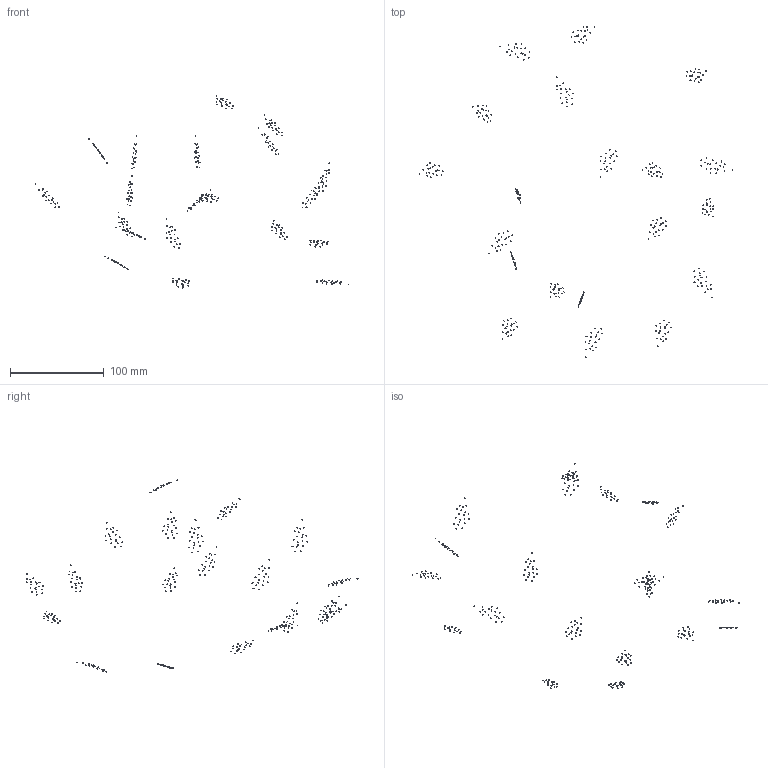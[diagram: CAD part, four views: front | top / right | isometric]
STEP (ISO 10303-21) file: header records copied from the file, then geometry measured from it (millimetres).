
FILE_DESCRIPTION(('Open CASCADE Model'),'2;1');
FILE_NAME('Open CASCADE Shape Model','2026-10-16T05:26:22',('Author'),( 'Open CASCADE'),'Open CASCADE STEP processor 7.9','Open CASCADE 7.9' ,'Unknown');
FILE_SCHEMA(('AUTOMOTIVE_DESIGN { 1 0 10303 214 1 1 1 1 }'));
Length unit declared in the file: millimetre
Products named in the file (401): Open CASCADE STEP translator 7.9 13; Open CASCADE STEP translator 7.9 13.1; Open CASCADE STEP translator 7.9 13.2; Open CASCADE STEP translator 7.9 13.3; Open CASCADE STEP translator 7.9 13.4; Open CASCADE STEP translator 7.9 13.5; Open CASCADE STEP translator 7.9 13.6; Open CASCADE STEP translator 7.9 13.7; Open CASCADE STEP translator 7.9 13.8; Open CASCADE STEP translator 7.9 13.9; Open CASCADE STEP translator 7.9 13.10; Open CASCADE STEP translator 7.9 13.11; Open CASCADE STEP translator 7.9 13.12; Open CASCADE STEP translator 7.9 13.13; Open CASCADE STEP translator 7.9 13.14; Open CASCADE STEP translator 7.9 13.15; Open CASCADE STEP translator 7.9 13.16; Open CASCADE STEP translator 7.9 13.17; Open CASCADE STEP translator 7.9 13.18; Open CASCADE STEP translator 7.9 13.19; Open CASCADE STEP translator 7.9 13.20; Open CASCADE STEP translator 7.9 13.21; Open CASCADE STEP translator 7.9 13.22; Open CASCADE STEP translator 7.9 13.23; Open CASCADE STEP translator 7.9 13.24; Open CASCADE STEP translator 7.9 13.25; Open CASCADE STEP translator 7.9 13.26; Open CASCADE STEP translator 7.9 13.27; Open CASCADE STEP translator 7.9 13.28; Open CASCADE STEP translator 7.9 13.29; Open CASCADE STEP translator 7.9 13.30; Open CASCADE STEP translator 7.9 13.31; Open CASCADE STEP translator 7.9 13.32; Open CASCADE STEP translator 7.9 13.33; Open CASCADE STEP translator 7.9 13.34; Open CASCADE STEP translator 7.9 13.35; Open CASCADE STEP translator 7.9 13.36; Open CASCADE STEP translator 7.9 13.37; Open CASCADE STEP translator 7.9 13.38; Open CASCADE STEP translator 7.9 13.39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
Assembly tree (400 placements, depth 2):
  Open CASCADE STEP translator 7.9 13
    Open CASCADE STEP translator 7.9 13.1
    Open CASCADE STEP translator 7.9 13.2
    Open CASCADE STEP translator 7.9 13.3
    Open CASCADE STEP translator 7.9 13.4
    Open CASCADE STEP translator 7.9 13.5
    Open CASCADE STEP translator 7.9 13.6
    Open CASCADE STEP translator 7.9 13.7
    Open CASCADE STEP translator 7.9 13.8
    Open CASCADE STEP translator 7.9 13.9
    Open CASCADE STEP translator 7.9 13.10
    Open CASCADE STEP translator 7.9 13.11
    Open CASCADE STEP translator 7.9 13.12
    Open CASCADE STEP translator 7.9 13.13
    Open CASCADE STEP translator 7.9 13.14
    Open CASCADE STEP translator 7.9 13.15
    Open CASCADE STEP translator 7.9 13.16
    Open CASCADE STEP translator 7.9 13.17
    Open CASCADE STEP translator 7.9 13.18
    Open CASCADE STEP translator 7.9 13.19
    Open CASCADE STEP translator 7.9 13.20
    Open CASCADE STEP translator 7.9 13.21
    Open CASCADE STEP translator 7.9 13.22
    Open CASCADE STEP translator 7.9 13.23
    Open CASCADE STEP translator 7.9 13.24
    Open CASCADE STEP translator 7.9 13.25
    Open CASCADE STEP translator 7.9 13.26
    Open CASCADE STEP translator 7.9 13.27
    Open CASCADE STEP translator 7.9 13.28
    Open CASCADE STEP translator 7.9 13.29
    Open CASCADE STEP translator 7.9 13.30
    Open CASCADE STEP translator 7.9 13.31
    Open CASCADE STEP translator 7.9 13.32
    Open CASCADE STEP translator 7.9 13.33
    Open CASCADE STEP translator 7.9 13.34
    Open CASCADE STEP translator 7.9 13.35
    Open CASCADE STEP translator 7.9 13.36
    Open CASCADE STEP translator 7.9 13.37
    Open CASCADE STEP translator 7.9 13.38
    Open CASCADE STEP translator 7.9 13.39
    Open CASCADE STEP translator 7.9 13.40
    Open CASCADE STEP translator 7.9 13.41
    Open CASCADE STEP translator 7.9 13.42
    Open CASCADE STEP translator 7.9 13.43
    Open CASCADE STEP translator 7.9 13.44
    Open CASCADE STEP translator 7.9 13.45
    Open CASCADE STEP translator 7.9 13.46
    Open CASCADE STEP translator 7.9 13.47
    Open CASCADE STEP translator 7.9 13.48
    Open CASCADE STEP translator 7.9 13.49
    Open CASCADE STEP translator 7.9 13.50
    Open CASCADE STEP translator 7.9 13.51
    Open CASCADE STEP translator 7.9 13.52
    Open CASCADE STEP translator 7.9 13.53
    Open CASCADE STEP translator 7.9 13.54
    Open CASCADE STEP translator 7.9 13.55
    Open CASCADE STEP translator 7.9 13.56
    Open CASCADE STEP translator 7.9 13.57
    Open CASCADE STEP translator 7.9 13.58
    Open CASCADE STEP translator 7.9 13.59
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Bounding box: 335.31 x 354.61 x 205.41 mm (x, y, z)
Volume: 70 mm3; surface area: 820 mm2
Topology: 400 solids, 400 shells, 2400 faces, 4800 edges, 3200 vertices
Faces by surface type: plane 2400
Entity records: 129616 total; most frequent: CARTESIAN_POINT 20401, DIRECTION 20002, LINE 14400, VECTOR 14400, ORIENTED_EDGE 9600, PCURVE 9600, DEFINITIONAL_REPRESENTATION 9600, EDGE_CURVE 4800
